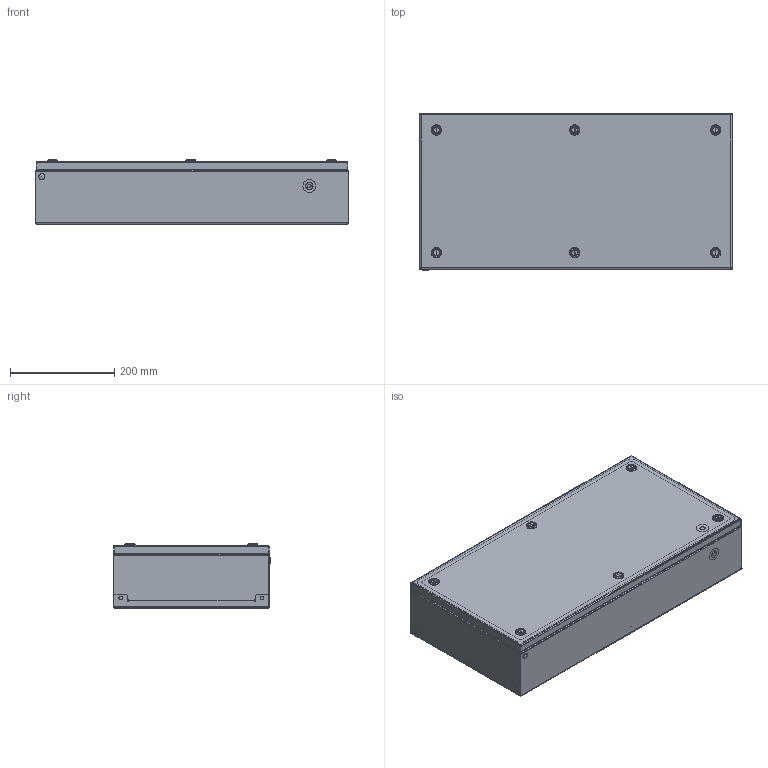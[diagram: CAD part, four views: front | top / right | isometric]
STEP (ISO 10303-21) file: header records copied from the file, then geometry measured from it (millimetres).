
FILE_DESCRIPTION (( 'STEP AP214' ), '1' );
FILE_NAME ('BCS 30.60.12 Êîðîáêà.STEP', '2022-09-13T11:53:32', ( '' ), ( '' ), 'SwSTEP 2.0', 'SolidWorks 2019', '' );
FILE_SCHEMA (( 'AUTOMOTIVE_DESIGN' ));
Length unit declared in the file: millimetre
Products named in the file (1): BCS 30.60.12 Êîðîáêà
Bounding box: 600 x 302.5 x 123 mm (x, y, z)
Volume: 1155626.2 mm3; surface area: 1663255.2 mm2
Topology: 51 solids, 51 shells, 2531 faces, 6222 edges, 3899 vertices
Faces by surface type: plane 1612, cylinder 563, cone 167, bspline 109, torus 67, sphere 13
Full cylindrical faces by diameter (mm): 3.2 x78, 6 x6, 7 x6, 9 x4, 9.3 x1, 10 x1, 12 x1, 14 x1, 24 x1, 24.8 x1
Entity records: 118759 total; most frequent: CARTESIAN_POINT 32115, ORIENTED_EDGE 12168, DIRECTION 11334, EDGE_CURVE 6084, VECTOR 4044, LINE 4044, VERTEX_POINT 3895, AXIS2_PLACEMENT_3D 3645
